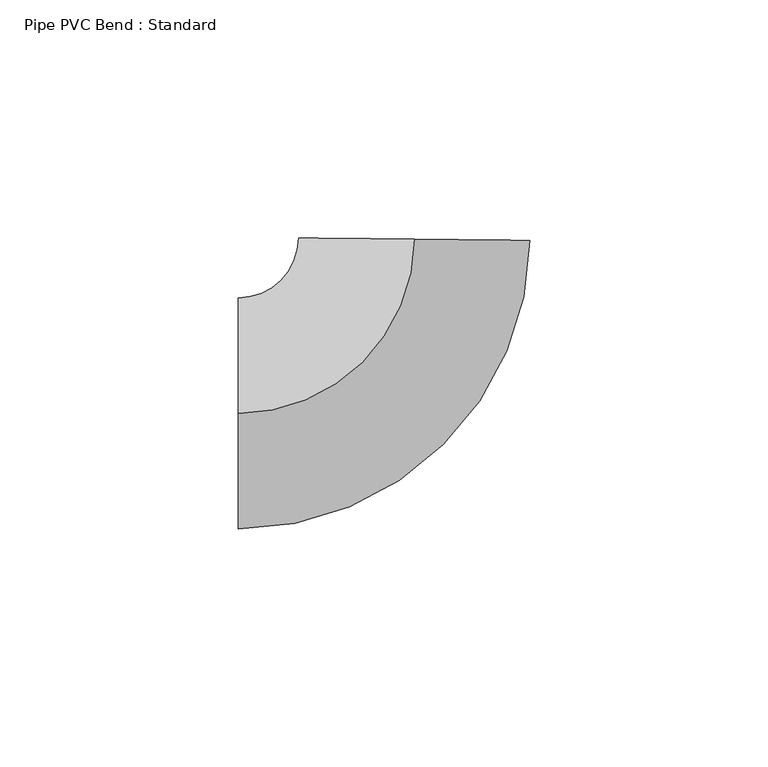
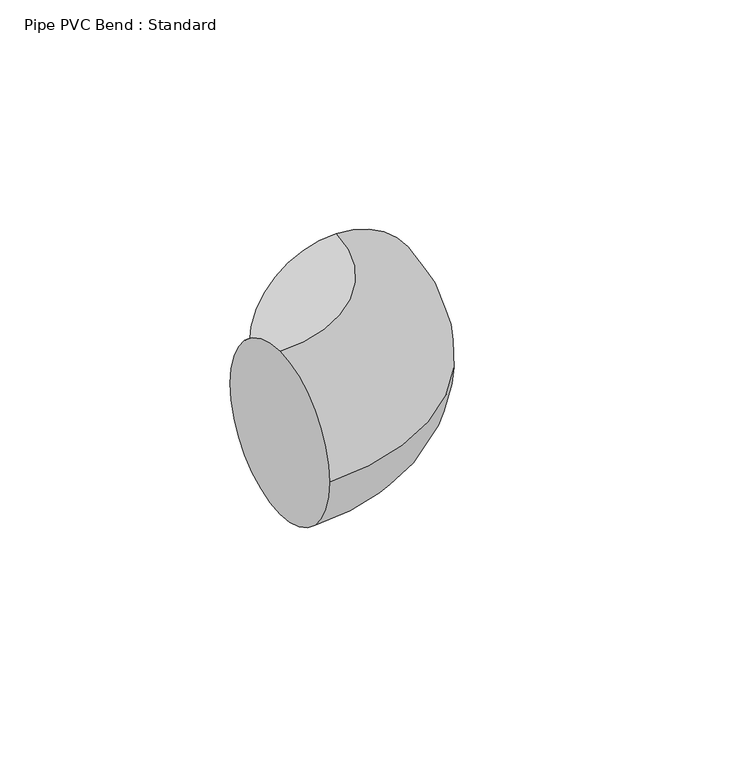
"""IFC4 building model written with IfcOpenShell, lengths in millimetres: pipe fitting geometry, Pipe PVC Bend : Standard."""

from ifc_helpers import new_model, si_unit, point, frame, origin, place, context, project, spatial, circle_curve, ellipse_curve, trimmed, source, transform, mapped, element, save
from ifc_brep_helpers import plane_surface, revolved_surface, advanced_brep


def pipe_pvc_bend_standard_2273d009(model_context):
    return source(origin(), model_context, "Body", "AdvancedBrep", [
        advanced_brep(
        [(-36.5740362, 0.0, 24.257), (-36.5740362, 24.257, 0.0), (-36.5740362, 0.0, -24.257), (-36.5740362, -24.257, 0.0), (0.3809589, 36.5720521, 24.257), (24.636643, 36.3193888, 0.0), (0.3809589, 36.5720521, -24.257), (-23.8747252, 36.8247155, 0.0)],
        [
            (0, 1, circle_curve(frame((-36.5740362, 0.0, 0.0), z_axis=(-1.0, 0.0, 0.0), x_axis=(0.0, 1.0, 0.0)), 24.257)),
            (1, 2, circle_curve(frame((-36.5740362, 0.0, 0.0), z_axis=(-1.0, 0.0, 0.0), x_axis=(0.0, 1.0, 0.0)), 24.257)),
            (2, 3, circle_curve(frame((-36.5740362, 0.0, 0.0), z_axis=(-1.0, 0.0, 0.0), x_axis=(0.0, 1.0, 0.0)), 24.257)),
            (3, 0, circle_curve(frame((-36.5740362, 0.0, 0.0), z_axis=(-1.0, 0.0, 0.0), x_axis=(0.0, 1.0, 0.0)), 24.257)),
            (4, 5, circle_curve(frame((0.3809589, 36.5720521, 0.0), z_axis=(0.010416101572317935, 0.9999457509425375, 0.0), x_axis=(-0.9999457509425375, 0.010416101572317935, 0.0)), 24.257)),
            (5, 6, circle_curve(frame((0.3809589, 36.5720521, 0.0), z_axis=(0.010416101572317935, 0.9999457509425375, 0.0), x_axis=(-0.9999457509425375, 0.010416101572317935, 0.0)), 24.257)),
            (6, 7, circle_curve(frame((0.3809589, 36.5720521, 0.0), z_axis=(0.010416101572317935, 0.9999457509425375, 0.0), x_axis=(-0.9999457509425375, 0.010416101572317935, 0.0)), 24.257)),
            (7, 4, circle_curve(frame((0.3809589, 36.5720521, 0.0), z_axis=(0.010416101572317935, 0.9999457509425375, 0.0), x_axis=(-0.9999457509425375, 0.010416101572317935, 0.0)), 24.257)),
            (7, 1, circle_curve(frame((-36.5740362, 36.957, 0.0), z_axis=(0.0, 0.0, -1.0), x_axis=(0.0, -1.0, 0.0)), 12.7)),
            (0, 4, circle_curve(frame((-36.5740362, 36.957, 24.257), z_axis=(0.0, 0.0, 1.0), x_axis=(0.0, -1.0, 0.0)), 36.957)),
            (6, 2, circle_curve(frame((-36.5740362, 36.957, -24.257), z_axis=(0.0, 0.0, -1.0), x_axis=(0.0, -1.0, 0.0)), 36.957)),
            (5, 3, circle_curve(frame((-36.5740362, 36.957, 0.0), z_axis=(0.0, 0.0, -1.0), x_axis=(0.0, -1.0, 0.0)), 61.214)),
        ],
        [
            plane_surface(frame((-36.5740362, 0.0, 0.0), z_axis=(-1.0, 0.0, 0.0), x_axis=(0.0, 0.0, 1.0))),
            plane_surface(frame((0.3809589, 36.5720521, 0.0), z_axis=(0.010416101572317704, 0.9999457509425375, 0.0), x_axis=(0.0, 0.0, 1.0))),
            revolved_surface(trimmed(ellipse_curve(frame((-36.5740362, 0.0, 0.0), z_axis=(-1.0, 0.0, 0.0), x_axis=(0.0, 1.0, 0.0)), 24.257, 24.257), [point((-36.5740362, 0.0, 24.257))], [point((-36.5740362, 24.257, 0.0))], True, "CARTESIAN"), (-36.5740362, 36.957, 0.0), (0.0, 0.0, 1.0)),
            revolved_surface(trimmed(ellipse_curve(frame((-36.5740362, 0.0, 0.0), z_axis=(-1.0, 0.0, 0.0), x_axis=(0.0, 1.0, 0.0)), 24.257, 24.257), [point((-36.5740362, 24.257, 0.0))], [point((-36.5740362, 0.0, -24.257))], True, "CARTESIAN"), (-36.5740362, 36.957, 0.0), (0.0, 0.0, 1.0)),
            revolved_surface(trimmed(ellipse_curve(frame((-36.5740362, 0.0, 0.0), z_axis=(-1.0, 0.0, 0.0), x_axis=(0.0, 1.0, 0.0)), 24.257, 24.257), [point((-36.5740362, 0.0, -24.257))], [point((-36.5740362, -24.257, 0.0))], True, "CARTESIAN"), (-36.5740362, 36.957, 0.0), (0.0, 0.0, 1.0)),
            revolved_surface(trimmed(ellipse_curve(frame((-36.5740362, 0.0, 0.0), z_axis=(-1.0, 0.0, 0.0), x_axis=(0.0, 1.0, 0.0)), 24.257, 24.257), [point((-36.5740362, -24.257, 0.0))], [point((-36.5740362, 0.0, 24.257))], True, "CARTESIAN"), (-36.5740362, 36.957, 0.0), (0.0, 0.0, 1.0)),
        ],
        [
            (0, [[1, 2, 3, 4]]),
            (1, [[5, 6, 7, 8]]),
            (2, [[9, -1, 10, -8]]),
            (3, [[11, -2, -9, -7]]),
            (4, [[12, -3, -11, -6]]),
            (5, [[-10, -4, -12, -5]]),
        ],
    ),
        advanced_brep(
        [(-36.5740362, 0.0, 24.257), (-36.5740362, 24.257, 0.0), (-36.5740362, 0.0, -24.257), (-36.5740362, -24.257, 0.0), (0.3809589, 36.5720521, 24.257), (24.636643, 36.3193888, 0.0), (0.3809589, 36.5720521, -24.257), (-23.8747252, 36.8247155, 0.0)],
        [
            (0, 1, circle_curve(frame((-36.5740362, 0.0, 0.0), z_axis=(-1.0, 0.0, 0.0), x_axis=(0.0, 1.0, 0.0)), 24.257)),
            (1, 2, circle_curve(frame((-36.5740362, 0.0, 0.0), z_axis=(-1.0, 0.0, 0.0), x_axis=(0.0, 1.0, 0.0)), 24.257)),
            (2, 3, circle_curve(frame((-36.5740362, 0.0, 0.0), z_axis=(-1.0, 0.0, 0.0), x_axis=(0.0, 1.0, 0.0)), 24.257)),
            (3, 0, circle_curve(frame((-36.5740362, 0.0, 0.0), z_axis=(-1.0, 0.0, 0.0), x_axis=(0.0, 1.0, 0.0)), 24.257)),
            (4, 5, circle_curve(frame((0.3809589, 36.5720521, 0.0), z_axis=(0.010416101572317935, 0.9999457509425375, 0.0), x_axis=(-0.9999457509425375, 0.010416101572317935, 0.0)), 24.257)),
            (5, 6, circle_curve(frame((0.3809589, 36.5720521, 0.0), z_axis=(0.010416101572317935, 0.9999457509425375, 0.0), x_axis=(-0.9999457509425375, 0.010416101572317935, 0.0)), 24.257)),
            (6, 7, circle_curve(frame((0.3809589, 36.5720521, 0.0), z_axis=(0.010416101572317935, 0.9999457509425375, 0.0), x_axis=(-0.9999457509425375, 0.010416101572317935, 0.0)), 24.257)),
            (7, 4, circle_curve(frame((0.3809589, 36.5720521, 0.0), z_axis=(0.010416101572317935, 0.9999457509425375, 0.0), x_axis=(-0.9999457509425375, 0.010416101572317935, 0.0)), 24.257)),
            (7, 1, circle_curve(frame((-36.5740362, 36.957, 0.0), z_axis=(0.0, 0.0, -1.0), x_axis=(0.0, -1.0, 0.0)), 12.7)),
            (0, 4, circle_curve(frame((-36.5740362, 36.957, 24.257), z_axis=(0.0, 0.0, 1.0), x_axis=(0.0, -1.0, 0.0)), 36.957)),
            (6, 2, circle_curve(frame((-36.5740362, 36.957, -24.257), z_axis=(0.0, 0.0, -1.0), x_axis=(0.0, -1.0, 0.0)), 36.957)),
            (5, 3, circle_curve(frame((-36.5740362, 36.957, 0.0), z_axis=(0.0, 0.0, -1.0), x_axis=(0.0, -1.0, 0.0)), 61.214)),
        ],
        [
            plane_surface(frame((-36.5740362, 0.0, 0.0), z_axis=(-1.0, 0.0, 0.0), x_axis=(0.0, 0.0, 1.0))),
            plane_surface(frame((0.3809589, 36.5720521, 0.0), z_axis=(0.010416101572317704, 0.9999457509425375, 0.0), x_axis=(0.0, 0.0, 1.0))),
            revolved_surface(trimmed(ellipse_curve(frame((-36.5740362, 0.0, 0.0), z_axis=(-1.0, 0.0, 0.0), x_axis=(0.0, 1.0, 0.0)), 24.257, 24.257), [point((-36.5740362, 0.0, 24.257))], [point((-36.5740362, 24.257, 0.0))], True, "CARTESIAN"), (-36.5740362, 36.957, 0.0), (0.0, 0.0, 1.0)),
            revolved_surface(trimmed(ellipse_curve(frame((-36.5740362, 0.0, 0.0), z_axis=(-1.0, 0.0, 0.0), x_axis=(0.0, 1.0, 0.0)), 24.257, 24.257), [point((-36.5740362, 24.257, 0.0))], [point((-36.5740362, 0.0, -24.257))], True, "CARTESIAN"), (-36.5740362, 36.957, 0.0), (0.0, 0.0, 1.0)),
            revolved_surface(trimmed(ellipse_curve(frame((-36.5740362, 0.0, 0.0), z_axis=(-1.0, 0.0, 0.0), x_axis=(0.0, 1.0, 0.0)), 24.257, 24.257), [point((-36.5740362, 0.0, -24.257))], [point((-36.5740362, -24.257, 0.0))], True, "CARTESIAN"), (-36.5740362, 36.957, 0.0), (0.0, 0.0, 1.0)),
            revolved_surface(trimmed(ellipse_curve(frame((-36.5740362, 0.0, 0.0), z_axis=(-1.0, 0.0, 0.0), x_axis=(0.0, 1.0, 0.0)), 24.257, 24.257), [point((-36.5740362, -24.257, 0.0))], [point((-36.5740362, 0.0, 24.257))], True, "CARTESIAN"), (-36.5740362, 36.957, 0.0), (0.0, 0.0, 1.0)),
        ],
        [
            (0, [[1, 2, 3, 4]]),
            (1, [[5, 6, 7, 8]]),
            (2, [[9, -1, 10, -8]]),
            (3, [[11, -2, -9, -7]]),
            (4, [[12, -3, -11, -6]]),
            (5, [[-10, -4, -12, -5]]),
        ],
    ),
    ])


if __name__ == "__main__":
    model = new_model("IFC4")
    model_context = context("Model", 3, world=origin())
    ifc_project = project(units=[si_unit("LENGTHUNIT", "METRE", prefix="MILLI")], contexts=[model_context])
    site = spatial("IfcSite", under=ifc_project)
    building = spatial("IfcBuilding", under=site)
    placement = place(None, origin())
    pipe_pvc_bend_standard_shape = pipe_pvc_bend_standard_2273d009(model_context)
    element("IfcPipeFitting", 1, ObjectType="Pipe PVC Bend : Standard", at=placement, inside=building, context=model_context, shape_type="MappedRepresentation", body=[
        mapped(pipe_pvc_bend_standard_shape, transform((0.0, 0.0, 0.0), x_axis=(1.0, 0.0, 0.0), y_axis=(0.0, 1.0, 0.0), z_axis=(0.0, 0.0, 1.0))),
    ])
    save(model, "model.ifc")
